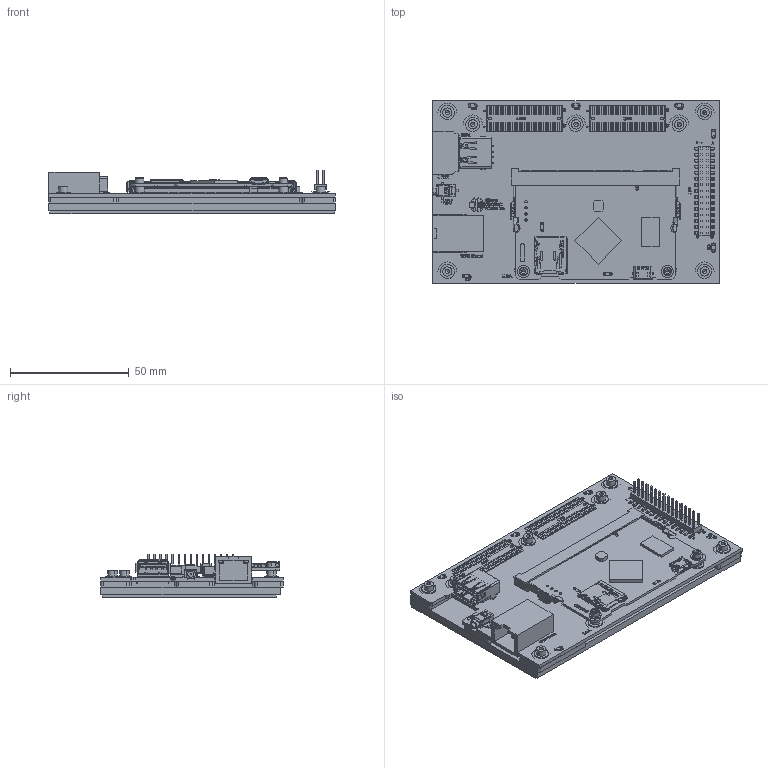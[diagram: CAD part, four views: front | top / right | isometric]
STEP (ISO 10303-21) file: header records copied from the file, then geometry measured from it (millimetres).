
FILE_DESCRIPTION (( 'STEP AP214' ), '1' );
FILE_NAME ('CFA921_ASSY.STEP', '2013-10-07T19:29:29', ( 'Brent A. Crosby' ), ( 'Crystalfontz America, Inc.' ), 'SwSTEP 2.0', 'SolidWorks 2013', '' );
FILE_SCHEMA (( 'AUTOMOTIVE_DESIGN' ));
Length unit declared in the file: millimetre
Products named in the file (15): CFA921_ASSY; TFT_module; TFT_touch_panel; TFT_minus_touch_panel; c-2-146134-1-n-3d_J_EXP_RE-MODELED; socket head cap screw_ai_HX-SHCS 0.086-56x0.188x0.188-S; internal tooth-lock washers_ai_Internal Tooth LW Type A-0.086; cfa10036; CFPN_01712; PJ-038-SMT_power_connector; ethernet_jack; c-1565917-4-d1-3d_sodimm_slot; 875832010blf; CFPN_01883_rubber_spacer; cfa10058_pcb
Assembly tree (24 placements, depth 3):
  CFA921_ASSY
    cfa10058_pcb
    CFPN_01883_rubber_spacer
    875832010blf
    c-1565917-4-d1-3d_sodimm_slot
    ethernet_jack
    PJ-038-SMT_power_connector
    CFPN_01712  x9
    cfa10036
    internal tooth-lock washers_ai_Internal Tooth LW Type A-0.086  x2
    socket head cap screw_ai_HX-SHCS 0.086-56x0.188x0.188-S  x2
    c-2-146134-1-n-3d_J_EXP_RE-MODELED
    TFT_module
      TFT_minus_touch_panel
      TFT_touch_panel
Bounding box: 121 x 77 x 18.23 mm (x, y, z)
Volume: 74366.1 mm3; surface area: 87105.2 mm2
Topology: 32 solids, 32 shells, 9120 faces, 24776 edges, 16301 vertices
Faces by surface type: plane 6746, cylinder 1577, bspline 663, cone 128, torus 6
Entity records: 353693 total; most frequent: CARTESIAN_POINT 91248, ORIENTED_EDGE 48410, DIRECTION 41592, EDGE_CURVE 24205, VECTOR 19670, LINE 19670, VERTEX_POINT 15948, AXIS2_PLACEMENT_3D 10961
